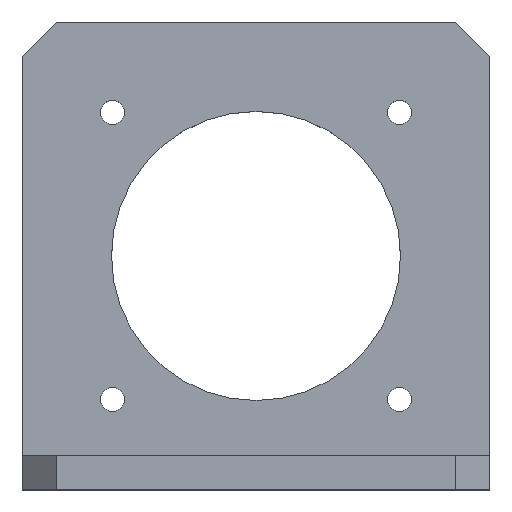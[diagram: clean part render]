
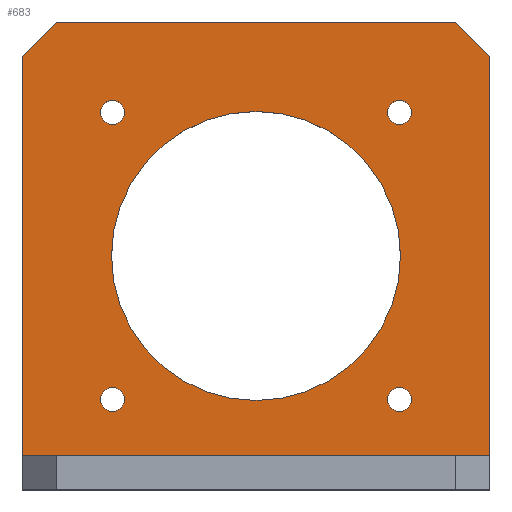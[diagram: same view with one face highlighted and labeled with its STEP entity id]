
A CAD part, top view. The second image highlights one B-rep face of the part: STEP entity #683.
In plain terms, the highlighted planar face has unit normal (0, 0, 1).
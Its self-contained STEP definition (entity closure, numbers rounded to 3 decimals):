
#1 = CARTESIAN_POINT ( 'NONE',  ( 34., 29., 5. ) ) ;
#5 = EDGE_CURVE ( 'NONE', #762, #547, #822, .T. ) ;
#20 = ORIENTED_EDGE ( 'NONE', *, *, #1057, .F. ) ;
#24 = CARTESIAN_POINT ( 'NONE',  ( -34., 29., 5. ) ) ;
#28 = EDGE_LOOP ( 'NONE', ( #20, #710 ) ) ;
#34 = EDGE_CURVE ( 'NONE', #1046, #816, #285, .T. ) ;
#36 = ORIENTED_EDGE ( 'NONE', *, *, #598, .F. ) ;
#37 = ORIENTED_EDGE ( 'NONE', *, *, #165, .T. ) ;
#44 = LINE ( 'NONE', #302, #830 ) ;
#52 = DIRECTION ( 'NONE',  ( 1., 0., 0. ) ) ;
#55 = ORIENTED_EDGE ( 'NONE', *, *, #881, .F. ) ;
#76 = VECTOR ( 'NONE', #666, 1000. ) ;
#80 = FACE_BOUND ( 'NONE', #277, .T. ) ;
#82 = EDGE_CURVE ( 'NONE', #1021, #526, #1001, .T. ) ;
#90 = EDGE_LOOP ( 'NONE', ( #726, #727 ) ) ;
#91 = DIRECTION ( 'NONE',  ( 0., 1., 0. ) ) ;
#101 = DIRECTION ( 'NONE',  ( -1., 0., 0. ) ) ;
#114 = VERTEX_POINT ( 'NONE', #841 ) ;
#133 = VERTEX_POINT ( 'NONE', #922 ) ;
#137 = AXIS2_PLACEMENT_3D ( 'NONE', #301, #915, #52 ) ;
#138 = CARTESIAN_POINT ( 'NONE',  ( 31.5, 31.5, 5. ) ) ;
#146 = VERTEX_POINT ( 'NONE', #248 ) ;
#152 = AXIS2_PLACEMENT_3D ( 'NONE', #611, #1101, #282 ) ;
#159 = CARTESIAN_POINT ( 'NONE',  ( 20.86, -20.86, 5. ) ) ;
#165 = EDGE_CURVE ( 'NONE', #947, #133, #395, .T. ) ;
#178 = LINE ( 'NONE', #522, #654 ) ;
#185 = EDGE_LOOP ( 'NONE', ( #345, #556 ) ) ;
#206 = ORIENTED_EDGE ( 'NONE', *, *, #951, .T. ) ;
#248 = CARTESIAN_POINT ( 'NONE',  ( 19.11, 20.86, 5. ) ) ;
#263 = CARTESIAN_POINT ( 'NONE',  ( 22.61, 20.86, 5. ) ) ;
#264 = CARTESIAN_POINT ( 'NONE',  ( -20.86, -20.86, 5. ) ) ;
#268 = CIRCLE ( 'NONE', #270, 21. ) ;
#270 = AXIS2_PLACEMENT_3D ( 'NONE', #397, #313, #1080 ) ;
#271 = DIRECTION ( 'NONE',  ( 1., 0., 0. ) ) ;
#273 = DIRECTION ( 'NONE',  ( 0., 0., 1. ) ) ;
#275 = CARTESIAN_POINT ( 'NONE',  ( 20.86, 20.86, 5. ) ) ;
#277 = EDGE_LOOP ( 'NONE', ( #467, #789 ) ) ;
#282 = DIRECTION ( 'NONE',  ( 1., 0., 0. ) ) ;
#285 = CIRCLE ( 'NONE', #427, 1.75 ) ;
#301 = CARTESIAN_POINT ( 'NONE',  ( -20.86, 20.86, 5. ) ) ;
#302 = CARTESIAN_POINT ( 'NONE',  ( -34., -34., 5. ) ) ;
#313 = DIRECTION ( 'NONE',  ( 0., 0., 1. ) ) ;
#314 = VECTOR ( 'NONE', #91, 1000. ) ;
#319 = FACE_BOUND ( 'NONE', #382, .T. ) ;
#323 = DIRECTION ( 'NONE',  ( 0., 0., 1. ) ) ;
#325 = VECTOR ( 'NONE', #566, 1000. ) ;
#328 = FACE_BOUND ( 'NONE', #28, .T. ) ;
#345 = ORIENTED_EDGE ( 'NONE', *, *, #351, .F. ) ;
#346 = CARTESIAN_POINT ( 'NONE',  ( -29., 34., 5. ) ) ;
#347 = LINE ( 'NONE', #866, #1098 ) ;
#351 = EDGE_CURVE ( 'NONE', #371, #483, #515, .T. ) ;
#371 = VERTEX_POINT ( 'NONE', #456 ) ;
#373 = VERTEX_POINT ( 'NONE', #707 ) ;
#382 = EDGE_LOOP ( 'NONE', ( #55, #36 ) ) ;
#384 = AXIS2_PLACEMENT_3D ( 'NONE', #1105, #860, #932 ) ;
#390 = ORIENTED_EDGE ( 'NONE', *, *, #857, .T. ) ;
#395 = LINE ( 'NONE', #138, #76 ) ;
#397 = CARTESIAN_POINT ( 'NONE',  ( 0., 0., 5. ) ) ;
#400 = DIRECTION ( 'NONE',  ( 0., 0., 1. ) ) ;
#420 = DIRECTION ( 'NONE',  ( 1., 0., 0. ) ) ;
#427 = AXIS2_PLACEMENT_3D ( 'NONE', #489, #400, #738 ) ;
#439 = CARTESIAN_POINT ( 'NONE',  ( -22.61, 20.86, 5. ) ) ;
#454 = DIRECTION ( 'NONE',  ( 0., 0., 1. ) ) ;
#456 = CARTESIAN_POINT ( 'NONE',  ( 19.11, -20.86, 5. ) ) ;
#467 = ORIENTED_EDGE ( 'NONE', *, *, #1017, .F. ) ;
#483 = VERTEX_POINT ( 'NONE', #825 ) ;
#486 = CARTESIAN_POINT ( 'NONE',  ( -19.11, -20.86, 5. ) ) ;
#489 = CARTESIAN_POINT ( 'NONE',  ( -20.86, 20.86, 5. ) ) ;
#490 = EDGE_CURVE ( 'NONE', #547, #114, #44, .T. ) ;
#501 = CARTESIAN_POINT ( 'NONE',  ( -20.86, -20.86, 5. ) ) ;
#502 = FACE_BOUND ( 'NONE', #185, .T. ) ;
#508 = AXIS2_PLACEMENT_3D ( 'NONE', #501, #837, #420 ) ;
#510 = PLANE ( 'NONE',  #1004 ) ;
#515 = CIRCLE ( 'NONE', #874, 1.75 ) ;
#517 = AXIS2_PLACEMENT_3D ( 'NONE', #264, #772, #783 ) ;
#522 = CARTESIAN_POINT ( 'NONE',  ( -34., -29., 5. ) ) ;
#526 = VERTEX_POINT ( 'NONE', #779 ) ;
#528 = CARTESIAN_POINT ( 'NONE',  ( 21., 0., 5. ) ) ;
#529 = CARTESIAN_POINT ( 'NONE',  ( 20.86, -20.86, 5. ) ) ;
#538 = VERTEX_POINT ( 'NONE', #528 ) ;
#547 = VERTEX_POINT ( 'NONE', #24 ) ;
#556 = ORIENTED_EDGE ( 'NONE', *, *, #650, .F. ) ;
#558 = CARTESIAN_POINT ( 'NONE',  ( -31.5, 31.5, 5. ) ) ;
#566 = DIRECTION ( 'NONE',  ( -0.707, -0.707, 0. ) ) ;
#568 = CIRCLE ( 'NONE', #384, 21. ) ;
#578 = CARTESIAN_POINT ( 'NONE',  ( 0., 0., 5. ) ) ;
#581 = CIRCLE ( 'NONE', #517, 1.75 ) ;
#592 = DIRECTION ( 'NONE',  ( 1., 0., 0. ) ) ;
#597 = LINE ( 'NONE', #935, #314 ) ;
#598 = EDGE_CURVE ( 'NONE', #790, #146, #960, .T. ) ;
#611 = CARTESIAN_POINT ( 'NONE',  ( 20.86, 20.86, 5. ) ) ;
#612 = DIRECTION ( 'NONE',  ( 1., 0., 0. ) ) ;
#639 = ORIENTED_EDGE ( 'NONE', *, *, #490, .T. ) ;
#644 = ORIENTED_EDGE ( 'NONE', *, *, #998, .F. ) ;
#650 = EDGE_CURVE ( 'NONE', #483, #371, #833, .T. ) ;
#654 = VECTOR ( 'NONE', #861, 1000. ) ;
#655 = CARTESIAN_POINT ( 'NONE',  ( -19.11, 20.86, 5. ) ) ;
#666 = DIRECTION ( 'NONE',  ( -0.707, 0.707, 0. ) ) ;
#683 = ADVANCED_FACE ( 'NONE', ( #1006, #502, #319, #328, #996, #80 ), #510, .T. ) ;
#707 = CARTESIAN_POINT ( 'NONE',  ( 34., -29., 5. ) ) ;
#710 = ORIENTED_EDGE ( 'NONE', *, *, #34, .F. ) ;
#726 = ORIENTED_EDGE ( 'NONE', *, *, #945, .F. ) ;
#727 = ORIENTED_EDGE ( 'NONE', *, *, #82, .F. ) ;
#732 = DIRECTION ( 'NONE',  ( 0., -1., 0. ) ) ;
#735 = CARTESIAN_POINT ( 'NONE',  ( -21., 0., 5. ) ) ;
#738 = DIRECTION ( 'NONE',  ( 1., 0., 0. ) ) ;
#762 = VERTEX_POINT ( 'NONE', #346 ) ;
#772 = DIRECTION ( 'NONE',  ( 0., 0., 1. ) ) ;
#779 = CARTESIAN_POINT ( 'NONE',  ( -22.61, -20.86, 5. ) ) ;
#782 = EDGE_CURVE ( 'NONE', #538, #1026, #568, .T. ) ;
#783 = DIRECTION ( 'NONE',  ( 1., 0., 0. ) ) ;
#789 = ORIENTED_EDGE ( 'NONE', *, *, #782, .F. ) ;
#790 = VERTEX_POINT ( 'NONE', #263 ) ;
#816 = VERTEX_POINT ( 'NONE', #439 ) ;
#822 = LINE ( 'NONE', #558, #325 ) ;
#825 = CARTESIAN_POINT ( 'NONE',  ( 22.61, -20.86, 5. ) ) ;
#830 = VECTOR ( 'NONE', #732, 1000. ) ;
#833 = CIRCLE ( 'NONE', #919, 1.75 ) ;
#837 = DIRECTION ( 'NONE',  ( 0., 0., 1. ) ) ;
#841 = CARTESIAN_POINT ( 'NONE',  ( -34., -29., 5. ) ) ;
#843 = DIRECTION ( 'NONE',  ( 1., 0., 0. ) ) ;
#857 = EDGE_CURVE ( 'NONE', #373, #947, #597, .T. ) ;
#860 = DIRECTION ( 'NONE',  ( 0., 0., 1. ) ) ;
#861 = DIRECTION ( 'NONE',  ( -1., 0., 0. ) ) ;
#866 = CARTESIAN_POINT ( 'NONE',  ( 34., 34., 5. ) ) ;
#874 = AXIS2_PLACEMENT_3D ( 'NONE', #529, #273, #612 ) ;
#881 = EDGE_CURVE ( 'NONE', #146, #790, #963, .T. ) ;
#915 = DIRECTION ( 'NONE',  ( 0., 0., 1. ) ) ;
#919 = AXIS2_PLACEMENT_3D ( 'NONE', #159, #1085, #592 ) ;
#922 = CARTESIAN_POINT ( 'NONE',  ( 29., 34., 5. ) ) ;
#932 = DIRECTION ( 'NONE',  ( 1., 0., 0. ) ) ;
#935 = CARTESIAN_POINT ( 'NONE',  ( 34., -34., 5. ) ) ;
#945 = EDGE_CURVE ( 'NONE', #526, #1021, #581, .T. ) ;
#947 = VERTEX_POINT ( 'NONE', #1 ) ;
#951 = EDGE_CURVE ( 'NONE', #133, #762, #347, .T. ) ;
#960 = CIRCLE ( 'NONE', #152, 1.75 ) ;
#963 = CIRCLE ( 'NONE', #989, 1.75 ) ;
#989 = AXIS2_PLACEMENT_3D ( 'NONE', #275, #454, #271 ) ;
#990 = EDGE_LOOP ( 'NONE', ( #390, #37, #206, #1043, #639, #644 ) ) ;
#996 = FACE_BOUND ( 'NONE', #90, .T. ) ;
#998 = EDGE_CURVE ( 'NONE', #373, #114, #178, .T. ) ;
#1001 = CIRCLE ( 'NONE', #508, 1.75 ) ;
#1004 = AXIS2_PLACEMENT_3D ( 'NONE', #578, #323, #843 ) ;
#1006 = FACE_OUTER_BOUND ( 'NONE', #990, .T. ) ;
#1015 = CIRCLE ( 'NONE', #137, 1.75 ) ;
#1017 = EDGE_CURVE ( 'NONE', #1026, #538, #268, .T. ) ;
#1021 = VERTEX_POINT ( 'NONE', #486 ) ;
#1026 = VERTEX_POINT ( 'NONE', #735 ) ;
#1043 = ORIENTED_EDGE ( 'NONE', *, *, #5, .T. ) ;
#1046 = VERTEX_POINT ( 'NONE', #655 ) ;
#1057 = EDGE_CURVE ( 'NONE', #816, #1046, #1015, .T. ) ;
#1080 = DIRECTION ( 'NONE',  ( 1., 0., 0. ) ) ;
#1085 = DIRECTION ( 'NONE',  ( 0., 0., 1. ) ) ;
#1098 = VECTOR ( 'NONE', #101, 1000. ) ;
#1101 = DIRECTION ( 'NONE',  ( 0., 0., 1. ) ) ;
#1105 = CARTESIAN_POINT ( 'NONE',  ( 0., 0., 5. ) ) ;
